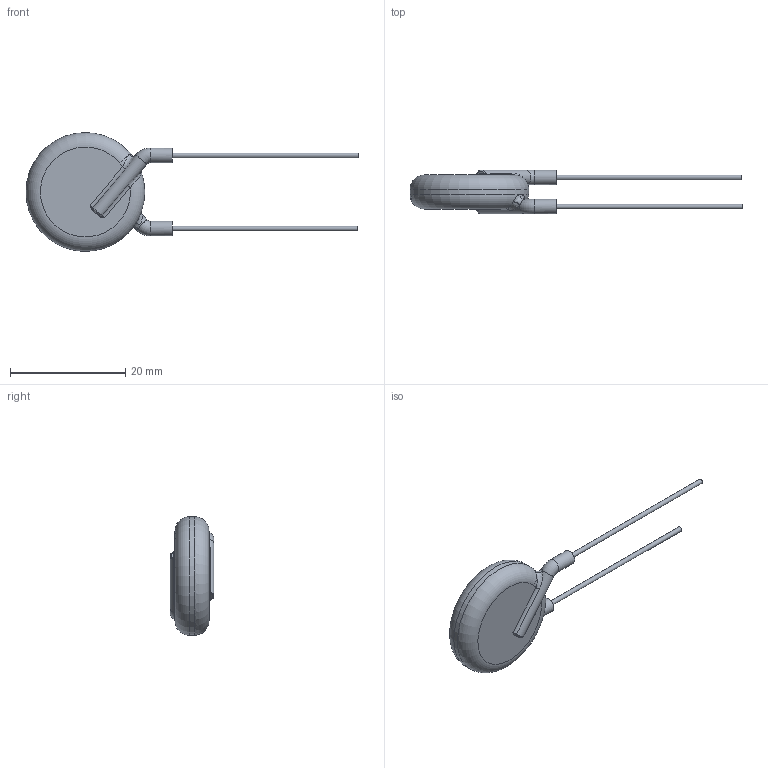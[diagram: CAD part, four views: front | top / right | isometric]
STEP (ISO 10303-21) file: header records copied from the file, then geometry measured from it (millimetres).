
FILE_DESCRIPTION((''),'2;1');
FILE_NAME('I:\Marketing\M6t1\3D-Models\Zchng-Werk-3\Upload for homepage\Ceramite\T3M-10kV\615R100GATT82\615R100GATT82.stp','2015-08-28T09:42:54',(''),(''),'Autodesk Inventor 2013','Autodesk Inventor 2013','');
FILE_SCHEMA(('AUTOMOTIVE_DESIGN { 1 0 10303 214 1 1 1 1 }'));
Length unit declared in the file: centimetre
Products named in the file (1): 615R100GATT82
Bounding box: 57.6 x 7.62 x 20.6 mm (x, y, z)
Volume: 1947.6 mm3; surface area: 1198.9 mm2
Topology: 1 solids, 1 shells, 42 faces, 96 edges, 54 vertices
Faces by surface type: cylinder 13, torus 11, bspline 10, plane 8
Full cylindrical faces by diameter (mm): 0.81 x2, 2.52 x2, 20.6 x1
Entity records: 1471 total; most frequent: CARTESIAN_POINT 612, DIRECTION 160, ORIENTED_EDGE 148, AXIS2_PLACEMENT_3D 74, EDGE_CURVE 74, EDGE_LOOP 52, VERTEX_POINT 46, CIRCLE 42
